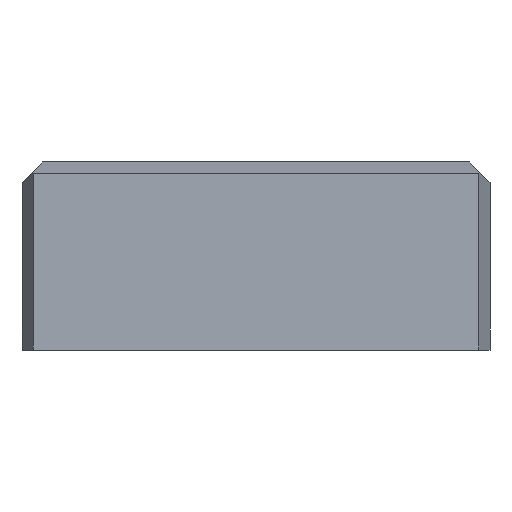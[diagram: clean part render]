
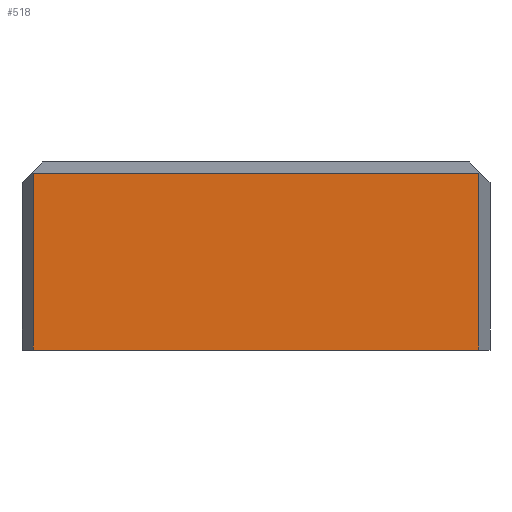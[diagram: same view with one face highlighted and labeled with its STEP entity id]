
A CAD part, front view. The second image highlights one B-rep face of the part: STEP entity #518.
In plain terms, the highlighted planar face has unit normal (0, -1, 0).
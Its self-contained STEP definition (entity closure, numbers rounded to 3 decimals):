
#98=CARTESIAN_POINT('Vertex',(53.321,0.,-45.)) ;
#101=CARTESIAN_POINT('Line Origine',(0.,0.,-45.)) ;
#105=CARTESIAN_POINT('Vertex',(-53.321,0.,-45.)) ;
#479=CARTESIAN_POINT('Vertex',(53.321,0.,-2.679)) ;
#482=CARTESIAN_POINT('Line Origine',(53.321,0.,-23.84)) ;
#495=CARTESIAN_POINT('Axis2P3D Location',(-53.321,0.,-45.)) ;
#500=CARTESIAN_POINT('Line Origine',(0.,0.,-2.679)) ;
#504=CARTESIAN_POINT('Vertex',(-53.321,0.,-2.679)) ;
#507=CARTESIAN_POINT('Line Origine',(-53.321,0.,-23.84)) ;
#102=DIRECTION('Vector Direction',(1.,0.,0.)) ;
#483=DIRECTION('Vector Direction',(0.,0.,1.)) ;
#496=DIRECTION('Axis2P3D Direction',(0.,-1.,0.)) ;
#497=DIRECTION('Axis2P3D XDirection',(0.,0.,-1.)) ;
#501=DIRECTION('Vector Direction',(-1.,0.,0.)) ;
#508=DIRECTION('Vector Direction',(0.,0.,1.)) ;
#498=AXIS2_PLACEMENT_3D('Plane Axis2P3D',#495,#496,#497) ;
#513=ORIENTED_EDGE('',*,*,#486,.T.) ;
#514=ORIENTED_EDGE('',*,*,#506,.T.) ;
#515=ORIENTED_EDGE('',*,*,#511,.F.) ;
#516=ORIENTED_EDGE('',*,*,#107,.T.) ;
#103=VECTOR('Line Direction',#102,1.) ;
#484=VECTOR('Line Direction',#483,1.) ;
#502=VECTOR('Line Direction',#501,1.) ;
#509=VECTOR('Line Direction',#508,1.) ;
#518=ADVANCED_FACE('A927-112X224X45',(#517),#499,.T.) ;
#107=EDGE_CURVE('',#106,#99,#104,.T.) ;
#486=EDGE_CURVE('',#99,#480,#485,.T.) ;
#506=EDGE_CURVE('',#480,#505,#503,.T.) ;
#511=EDGE_CURVE('',#106,#505,#510,.T.) ;
#512=EDGE_LOOP('',(#513,#514,#515,#516)) ;
#517=FACE_OUTER_BOUND('',#512,.T.) ;
#104=LINE('Line',#101,#103) ;
#485=LINE('Line',#482,#484) ;
#503=LINE('Line',#500,#502) ;
#510=LINE('Line',#507,#509) ;
#499=PLANE('Plane',#498) ;
#99=VERTEX_POINT('',#98) ;
#106=VERTEX_POINT('',#105) ;
#480=VERTEX_POINT('',#479) ;
#505=VERTEX_POINT('',#504) ;
